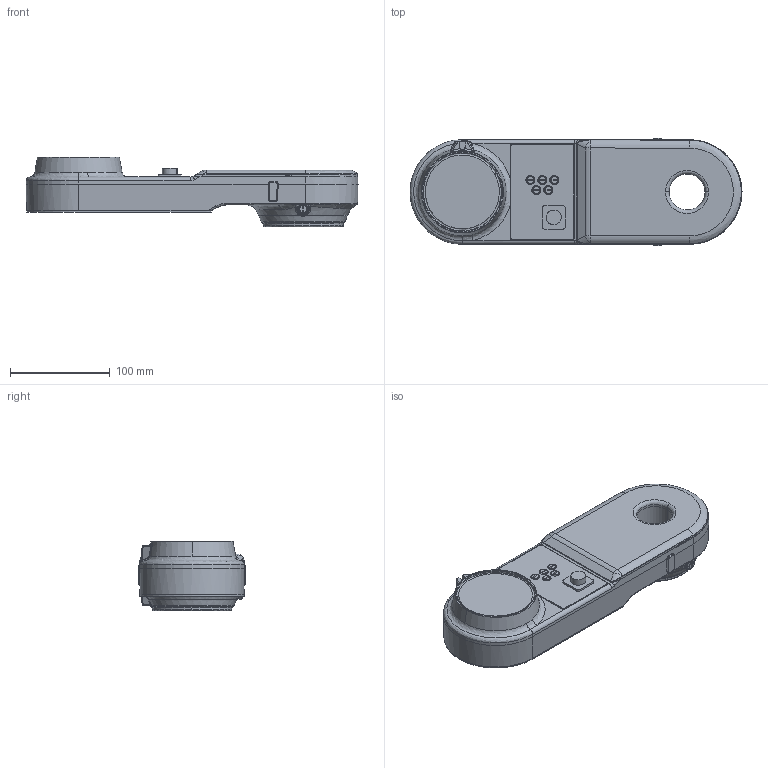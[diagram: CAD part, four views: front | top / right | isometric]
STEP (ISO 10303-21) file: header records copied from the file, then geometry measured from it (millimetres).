
FILE_DESCRIPTION(('CATIA V5 STEP Exchange'),'2;1');
FILE_NAME('Z:\Data1\ROBOT\CATIA06\products\EZ\EZ03-4525-02\Assy\Lightmodel\STEP\EZ03V-4525_J3.stp','2016-03-04T04:22:14+00:00',('none'),('none'),'Version 5-6 Release 2012','CATIA V5 STEP AP203','none');
FILE_SCHEMA(('CONFIG_CONTROL_DESIGN'));
Length unit declared in the file: millimetre
Products named in the file (1): J3_EZ03-02
Bounding box: 332.5 x 108 x 70 mm (x, y, z)
Volume: 118959.4 mm3; surface area: 183743.3 mm2
Topology: 3 solids, 5 shells, 510 faces, 1252 edges, 757 vertices
Faces by surface type: plane 210, cylinder 126, revolution 99, bspline 75
Entity records: 22314 total; most frequent: CARTESIAN_POINT 11597, ORIENTED_EDGE 2498, DIRECTION 1529, EDGE_CURVE 1250, VERTEX_POINT 757, AXIS2_PLACEMENT_3D 593, B_SPLINE_CURVE_WITH_KNOTS 589, EDGE_LOOP 533
